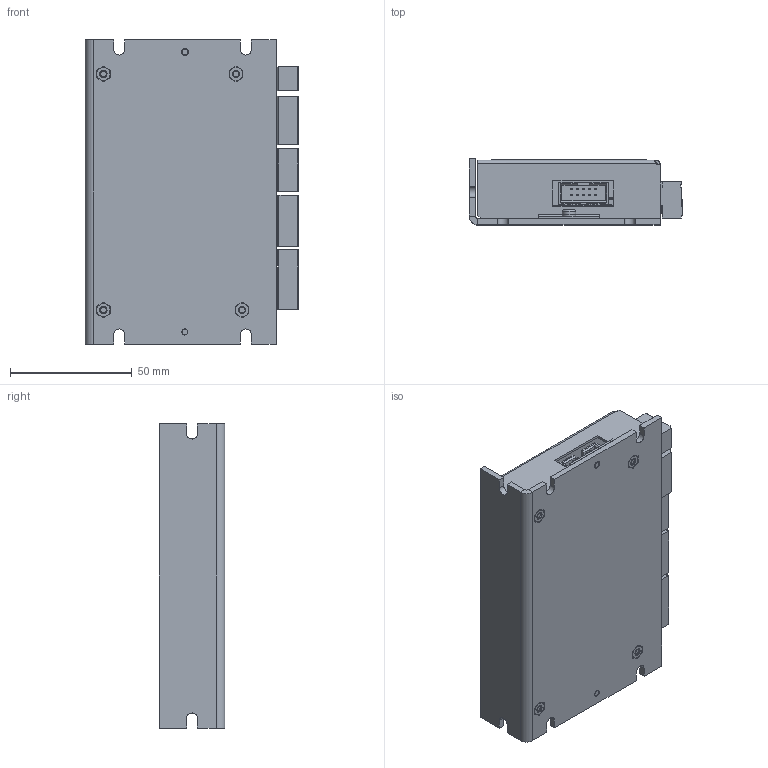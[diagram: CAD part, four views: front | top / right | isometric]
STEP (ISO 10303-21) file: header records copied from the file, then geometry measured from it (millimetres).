
FILE_DESCRIPTION((''),'2;1');
FILE_NAME('422969_ESCON_70_10_ASM','2012-11-05T',('johannes'),(''),'PRO/ENGINEER BY PARAMETRIC TECHNOLOGY CORPORATION, 2010330','PRO/ENGINEER BY PARAMETRIC TECHNOLOGY CORPORATION, 2010330','');
FILE_SCHEMA(('CONFIG_CONTROL_DESIGN'));
Products named in the file (39): PRINTED_BOARD_70_10; M3X8; J1_POWER_SOCKET_LG; J2_MOTOR_PIN_LG; J2_MOTOR_PLUG_LG; J1_POWER_PLUG_LG; HOUSING_BASEPLATE_70_10; PEM-SO-3_5M3X6_A2A; HOUSING_COVER_70_10; M3X4; SILKSCREEN_12_LG; SILKSCREEN_1234_LG; J6_ANALOG_IOS_PIN; J6_ANALOG_IOS_PLUG; SILKSCREEN_1234567; J5_DIGITAL_IOS_PIN; J5_DIGITAL_IOS_PLUG; SILKSCREEN_123456; J3_HALL_SENSOR_PIN; J3_HALL_SENSOR_PLUG; SILKSCREEN_12345; P_POTENTIOMETER_2; J7_USB; J4_ENCODER_SOCKET_2; SILKSCREEN_BASE_99X64; SILKSCREEN_70_10_TEXT1; SILKSCREEN_LOGO_70_10; SILKSCREEN_MAXON_LOGO_27X3; SILKSCREEN_70_10_ASM; SILKSCREEN_12345_BASE; SILKSCREEN_123456_BASE; SILKSCREEN_1234567_BASE; SILKSCREEN_12_LG_BASE; SILKSCREEN_1234_LG_BASE; LED_BASE; LED_GREEN; LED_RED; STATUS_INDICATOR_LED_ASM; 422969_ESCON_70_10_ASM
Assembly tree (47 placements, depth 3):
  422969_ESCON_70_10_ASM
    PRINTED_BOARD_70_10
    M3X8  x4
    J1_POWER_SOCKET_LG
    J2_MOTOR_PIN_LG
    J2_MOTOR_PLUG_LG
    J1_POWER_PLUG_LG
    HOUSING_BASEPLATE_70_10
    PEM-SO-3_5M3X6_A2A  x4
    HOUSING_COVER_70_10
    M3X4  x2
    SILKSCREEN_12_LG
    SILKSCREEN_1234_LG
    J6_ANALOG_IOS_PIN
    J6_ANALOG_IOS_PLUG
    SILKSCREEN_1234567
    J5_DIGITAL_IOS_PIN
    J5_DIGITAL_IOS_PLUG
    SILKSCREEN_123456
    J3_HALL_SENSOR_PIN
    J3_HALL_SENSOR_PLUG
    SILKSCREEN_12345
    P_POTENTIOMETER_2  x2
    J7_USB
    J4_ENCODER_SOCKET_2
    SILKSCREEN_70_10_ASM
      SILKSCREEN_BASE_99X64
      SILKSCREEN_70_10_TEXT1
      SILKSCREEN_LOGO_70_10
      SILKSCREEN_MAXON_LOGO_27X3
    SILKSCREEN_12345_BASE
    SILKSCREEN_123456_BASE
    SILKSCREEN_1234567_BASE
    SILKSCREEN_12_LG_BASE
    SILKSCREEN_1234_LG_BASE
    STATUS_INDICATOR_LED_ASM
      LED_BASE  x2
      LED_GREEN
      LED_RED
Bounding box: 87.79 x 27 x 125 mm (x, y, z)
Volume: 75894.2 mm3; surface area: 118400.3 mm2
Topology: 118 solids, 130 shells, 9507 faces, 26479 edges, 17386 vertices
Faces by surface type: plane 8435, cylinder 922, cone 78, torus 60, sphere 8, bspline 4
Entity records: 293199 total; most frequent: CARTESIAN_POINT 53004, ORIENTED_EDGE 51574, DIRECTION 45983, EDGE_CURVE 25797, VECTOR 23811, LINE 23811, VERTEX_POINT 16944, AXIS2_PLACEMENT_3D 11086
